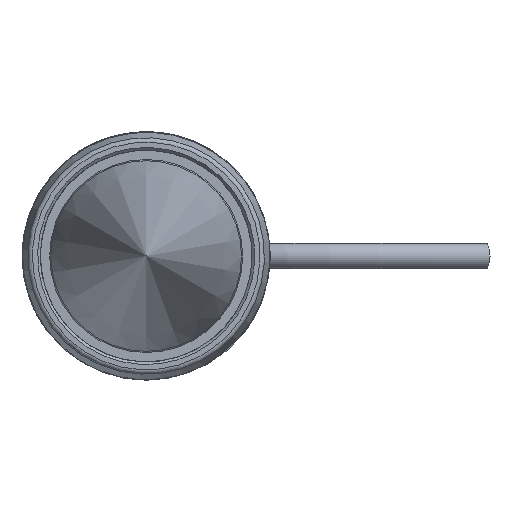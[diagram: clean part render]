
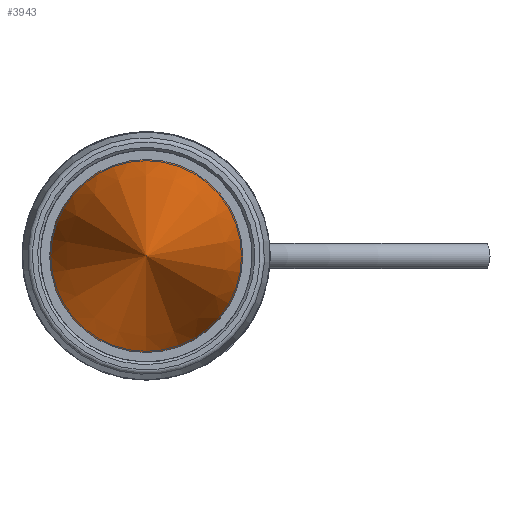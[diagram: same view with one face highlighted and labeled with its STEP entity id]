
A CAD part, front view. The second image highlights one B-rep face of the part: STEP entity #3943.
In plain terms, the highlighted conical face has half-angle 14.351 degrees and reference radius 255.854 mm.
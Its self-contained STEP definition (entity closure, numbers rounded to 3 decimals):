
#280 = FACE_OUTER_BOUND ( 'NONE', #787, .T. ) ;
#404 = CONICAL_SURFACE ( 'NONE', #6417, 255.854, 0.25 ) ;
#426 = ORIENTED_EDGE ( 'NONE', *, *, #1126, .F. ) ;
#787 = EDGE_LOOP ( 'NONE', ( #426 ) ) ;
#823 = CARTESIAN_POINT ( 'NONE',  ( 0., 959., 0. ) ) ;
#917 = DIRECTION ( 'NONE',  ( 0., 1., 0. ) ) ;
#1126 = EDGE_CURVE ( 'NONE', #4350, #4350, #1984, .T. ) ;
#1984 = CIRCLE ( 'NONE', #4501, 10.49 ) ;
#2332 = CARTESIAN_POINT ( 'NONE',  ( 0., 0., 10.49 ) ) ;
#2773 = DIRECTION ( 'NONE',  ( 0., 1., 0. ) ) ;
#3655 = CARTESIAN_POINT ( 'NONE',  ( 0., 0., 0. ) ) ;
#3792 = DIRECTION ( 'NONE',  ( 0., 0., 1. ) ) ;
#3943 = ADVANCED_FACE ( 'NONE', ( #280 ), #404, .T. ) ;
#4350 = VERTEX_POINT ( 'NONE', #2332 ) ;
#4501 = AXIS2_PLACEMENT_3D ( 'NONE', #3655, #2773, #3792 ) ;
#6032 = DIRECTION ( 'NONE',  ( 0., 0., 1. ) ) ;
#6417 = AXIS2_PLACEMENT_3D ( 'NONE', #823, #917, #6032 ) ;
